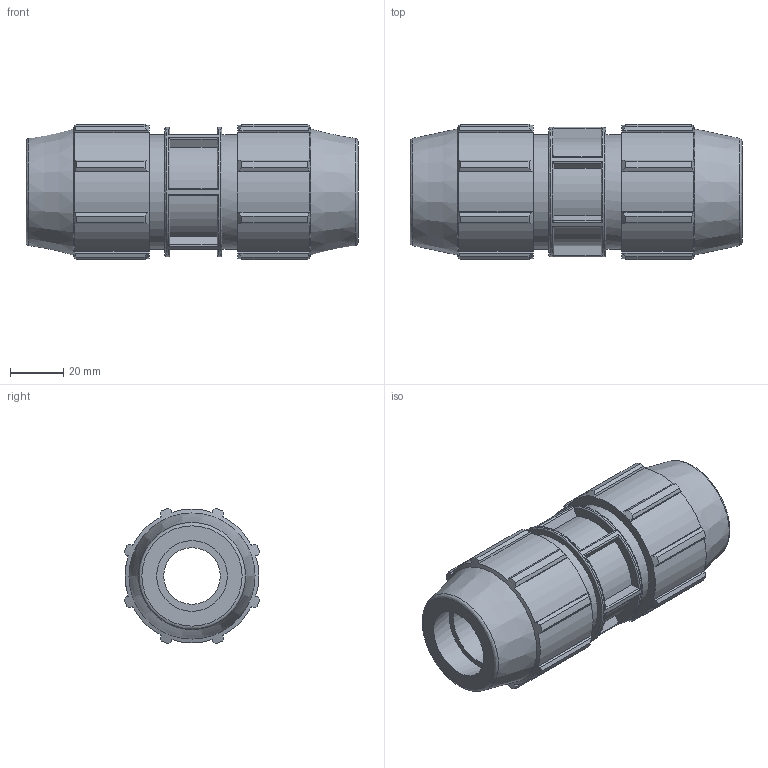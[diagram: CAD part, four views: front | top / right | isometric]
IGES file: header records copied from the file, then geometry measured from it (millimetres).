
Global section: file name: 0701M007.ipt; native system: Autodesk Inventor 2019; preprocessor: unknown; author: KIM; date: 20210826.124347; units: inch
Bounding box: 124.97 x 50.91 x 50.91 mm (x, y, z)
Volume: 149810.7 mm3; surface area: 35778.8 mm2
Topology: 1 solids, 1 shells, 193 faces, 546 edges, 368 vertices
Faces by surface type: plane 98, cylinder 53, revolution 22, cone 20
Full cylindrical faces by diameter (mm): 43.282 x2, 48.692 x1
